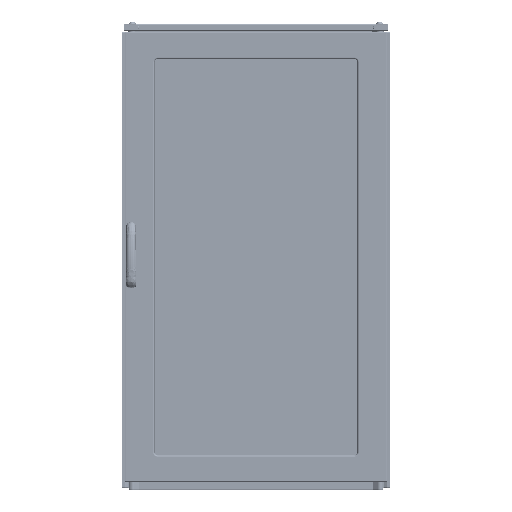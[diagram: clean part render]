
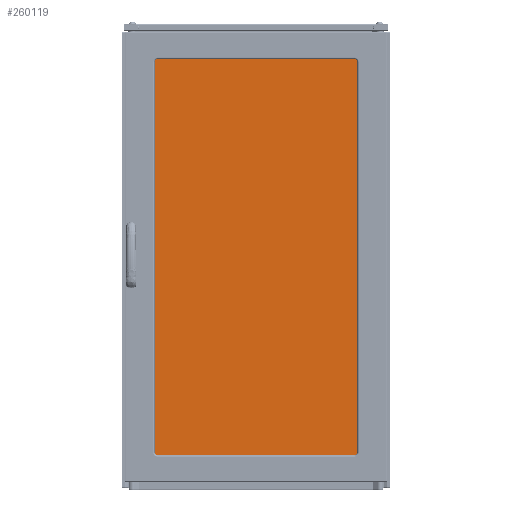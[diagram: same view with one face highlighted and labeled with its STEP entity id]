
A CAD part, top view. The second image highlights one B-rep face of the part: STEP entity #260119.
In plain terms, the highlighted planar face has unit normal (0, 0, 1).
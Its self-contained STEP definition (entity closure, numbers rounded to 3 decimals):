
#732 = LINE ( 'NONE', #48357, #23696 ) ;
#3028 = ORIENTED_EDGE ( 'NONE', *, *, #129173, .T. ) ;
#21316 = FACE_OUTER_BOUND ( 'NONE', #158942, .T. ) ;
#23696 = VECTOR ( 'NONE', #108798, 1000. ) ;
#41981 = DIRECTION ( 'NONE',  ( 0., -1., 0. ) ) ;
#43739 = DIRECTION ( 'NONE',  ( 1., 0., 0. ) ) ;
#48357 = CARTESIAN_POINT ( 'NONE',  ( 0., -646., 4. ) ) ;
#51505 = VECTOR ( 'NONE', #261634, 1000. ) ;
#62319 = LINE ( 'NONE', #188678, #111264 ) ;
#70921 = EDGE_CURVE ( 'NONE', #80642, #259527, #732, .T. ) ;
#80642 = VERTEX_POINT ( 'NONE', #265710 ) ;
#81770 = DIRECTION ( 'NONE',  ( 0., 0., 1. ) ) ;
#83001 = ORIENTED_EDGE ( 'NONE', *, *, #102475, .T. ) ;
#102475 = EDGE_CURVE ( 'NONE', #259527, #117991, #62319, .T. ) ;
#108798 = DIRECTION ( 'NONE',  ( 1., 0., 0. ) ) ;
#111264 = VECTOR ( 'NONE', #274284, 1000. ) ;
#117090 = LINE ( 'NONE', #264417, #51505 ) ;
#117991 = VERTEX_POINT ( 'NONE', #263509 ) ;
#129173 = EDGE_CURVE ( 'NONE', #130194, #80642, #214538, .T. ) ;
#130194 = VERTEX_POINT ( 'NONE', #190668 ) ;
#158942 = EDGE_LOOP ( 'NONE', ( #3028, #229860, #83001, #160689 ) ) ;
#160689 = ORIENTED_EDGE ( 'NONE', *, *, #246434, .T. ) ;
#162499 = CARTESIAN_POINT ( 'NONE',  ( 1231., -646., 4. ) ) ;
#168028 = VECTOR ( 'NONE', #41981, 1000. ) ;
#188678 = CARTESIAN_POINT ( 'NONE',  ( 1231., 0., 4. ) ) ;
#190668 = CARTESIAN_POINT ( 'NONE',  ( 0., 0., 4. ) ) ;
#214538 = LINE ( 'NONE', #236973, #168028 ) ;
#217522 = AXIS2_PLACEMENT_3D ( 'NONE', #275374, #81770, #43739 ) ;
#229860 = ORIENTED_EDGE ( 'NONE', *, *, #70921, .T. ) ;
#233231 = PLANE ( 'NONE',  #217522 ) ;
#236973 = CARTESIAN_POINT ( 'NONE',  ( 0., 0., 4. ) ) ;
#246434 = EDGE_CURVE ( 'NONE', #117991, #130194, #117090, .T. ) ;
#259527 = VERTEX_POINT ( 'NONE', #162499 ) ;
#260119 = ADVANCED_FACE ( 'NONE', ( #21316 ), #233231, .T. ) ;
#261634 = DIRECTION ( 'NONE',  ( -1., 0., 0. ) ) ;
#263509 = CARTESIAN_POINT ( 'NONE',  ( 1231., 0., 4. ) ) ;
#264417 = CARTESIAN_POINT ( 'NONE',  ( 0., 0., 4. ) ) ;
#265710 = CARTESIAN_POINT ( 'NONE',  ( 0., -646., 4. ) ) ;
#274284 = DIRECTION ( 'NONE',  ( 0., 1., 0. ) ) ;
#275374 = CARTESIAN_POINT ( 'NONE',  ( 0., -646., 4. ) ) ;
